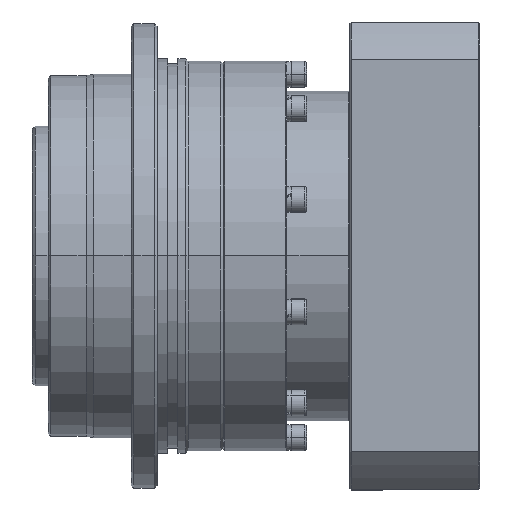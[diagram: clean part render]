
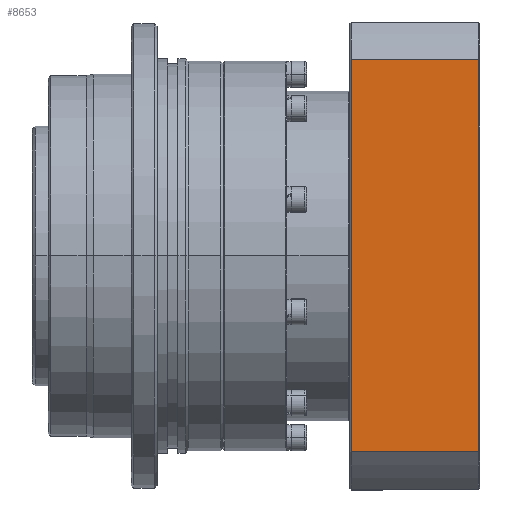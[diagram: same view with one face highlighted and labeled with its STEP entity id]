
A CAD part, top view. The second image highlights one B-rep face of the part: STEP entity #8653.
In plain terms, the highlighted planar face has unit normal (0, 0, 1).
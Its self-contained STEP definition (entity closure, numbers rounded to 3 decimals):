
#314 = EDGE_CURVE ( 'NONE', #9721, #6134, #18989, .T. ) ;
#883 = VECTOR ( 'NONE', #6175, 1000. ) ;
#1165 = DIRECTION ( 'NONE',  ( -1., 0., 0. ) ) ;
#2164 = ORIENTED_EDGE ( 'NONE', *, *, #18684, .F. ) ;
#2560 = VERTEX_POINT ( 'NONE', #19171 ) ;
#2624 = CARTESIAN_POINT ( 'NONE',  ( 50., -90., 90. ) ) ;
#2857 = ORIENTED_EDGE ( 'NONE', *, *, #6149, .F. ) ;
#2931 = CARTESIAN_POINT ( 'NONE',  ( 0.5, -90., 90. ) ) ;
#3928 = CARTESIAN_POINT ( 'NONE',  ( 49.5, -75.54, 90. ) ) ;
#4234 = DIRECTION ( 'NONE',  ( 0., 0., -1. ) ) ;
#5929 = CARTESIAN_POINT ( 'NONE',  ( 49.5, 75.54, 90. ) ) ;
#6134 = VERTEX_POINT ( 'NONE', #10834 ) ;
#6149 = EDGE_CURVE ( 'NONE', #6134, #2560, #17552, .T. ) ;
#6175 = DIRECTION ( 'NONE',  ( 0., 1., 0. ) ) ;
#6552 = DIRECTION ( 'NONE',  ( -1., 0., 0. ) ) ;
#8653 = ADVANCED_FACE ( 'NONE', ( #14931 ), #20262, .F. ) ;
#8973 = EDGE_LOOP ( 'NONE', ( #15263, #2164, #2857, #16787 ) ) ;
#9132 = DIRECTION ( 'NONE',  ( 1., 0., 0. ) ) ;
#9721 = VERTEX_POINT ( 'NONE', #3928 ) ;
#10834 = CARTESIAN_POINT ( 'NONE',  ( 0.5, -75.54, 90. ) ) ;
#11355 = VERTEX_POINT ( 'NONE', #5929 ) ;
#12846 = EDGE_CURVE ( 'NONE', #9721, #11355, #18468, .T. ) ;
#13284 = VECTOR ( 'NONE', #15709, 1000. ) ;
#14706 = VECTOR ( 'NONE', #6552, 1000. ) ;
#14931 = FACE_OUTER_BOUND ( 'NONE', #8973, .T. ) ;
#15263 = ORIENTED_EDGE ( 'NONE', *, *, #12846, .T. ) ;
#15709 = DIRECTION ( 'NONE',  ( 0., 1., 0. ) ) ;
#16624 = LINE ( 'NONE', #20172, #17130 ) ;
#16787 = ORIENTED_EDGE ( 'NONE', *, *, #314, .F. ) ;
#16980 = AXIS2_PLACEMENT_3D ( 'NONE', #2624, #4234, #1165 ) ;
#17130 = VECTOR ( 'NONE', #9132, 1000. ) ;
#17259 = CARTESIAN_POINT ( 'NONE',  ( 49.5, 90., 90. ) ) ;
#17552 = LINE ( 'NONE', #2931, #13284 ) ;
#18468 = LINE ( 'NONE', #17259, #883 ) ;
#18684 = EDGE_CURVE ( 'NONE', #2560, #11355, #16624, .T. ) ;
#18989 = LINE ( 'NONE', #20804, #14706 ) ;
#19171 = CARTESIAN_POINT ( 'NONE',  ( 0.5, 75.54, 90. ) ) ;
#20172 = CARTESIAN_POINT ( 'NONE',  ( 50., 75.54, 90. ) ) ;
#20262 = PLANE ( 'NONE',  #16980 ) ;
#20804 = CARTESIAN_POINT ( 'NONE',  ( 50., -75.54, 90. ) ) ;
